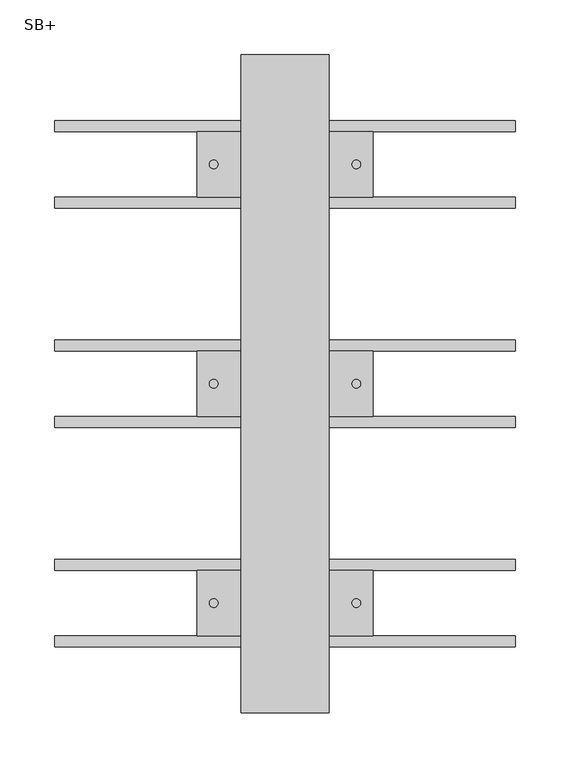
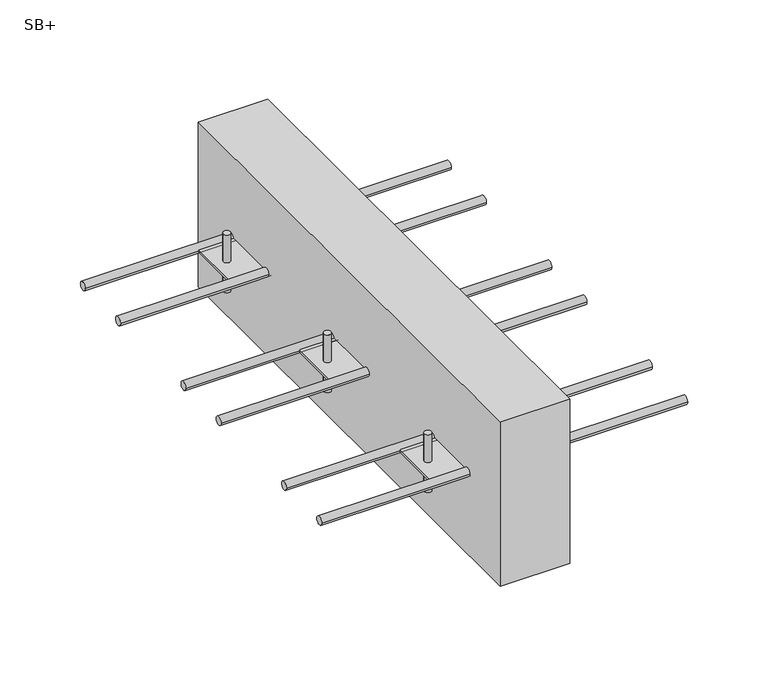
"""IFC4 building model written with IfcOpenShell, lengths in millimetres: proxy geometry, ACINOXplus_Typenreihe_S : SB+."""

from ifc_helpers import new_model, si_unit, point, frame, frame_2d, origin, place, context, project, spatial, polyline, circle_curve, trimmed, segment, composite_curve, outline, extrude, source, transform, mapped, element, save
from ifc_brep_helpers import plane_surface, cylinder_surface, advanced_brep


def sb_80aecc08(model_context):
    return source(origin(), model_context, "Body", "SolidModel", [
        extrude(outline(composite_curve([segment(trimmed(circle_curve(frame_2d((-35.0, -100.0)), 5.0), [point((-40.0, -100.0))], [point((-30.0, -100.0))], False, "CARTESIAN"), True, "CONTINUOUS"), segment(trimmed(circle_curve(frame_2d((-35.0, -100.0)), 5.0), [point((-30.0, -100.0))], [point((-40.0, -100.0))], False, "CARTESIAN"), True, "CONTINUOUS")], self_intersect=False)), frame((-210.0, 0.0, 0.0), z_axis=(1.0, 0.0, 0.0), x_axis=(0.0, 1.0, 0.0)), (0.0, 0.0, 1.0), 420.0),
        extrude(outline(composite_curve([segment(trimmed(circle_curve(frame_2d((35.0, -100.0)), 5.0), [point((30.0, -100.0))], [point((40.0, -100.0))], False, "CARTESIAN"), True, "CONTINUOUS"), segment(trimmed(circle_curve(frame_2d((35.0, -100.0)), 5.0), [point((40.0, -100.0))], [point((30.0, -100.0))], False, "CARTESIAN"), True, "CONTINUOUS")], self_intersect=False)), frame((-210.0, 0.0, 0.0), z_axis=(1.0, 0.0, 0.0), x_axis=(0.0, 1.0, 0.0)), (0.0, 0.0, 1.0), 420.0),
        advanced_brep(
        [(-69.0, 0.0, -65.0), (-61.0, 0.0, -65.0), (61.0, 0.0, -65.0), (69.0, 0.0, -65.0), (-69.0, 0.0, -135.0), (-61.0, 0.0, -135.0), (61.0, 0.0, -135.0), (69.0, 0.0, -135.0), (-69.0, 0.0, -98.5), (-61.0, 0.0, -98.5), (-61.0, 0.0, -101.5), (-69.0, 0.0, -101.5), (61.0, 0.0, -98.5), (69.0, 0.0, -98.5), (69.0, 0.0, -101.5), (61.0, 0.0, -101.5), (80.0, 30.0, -98.5), (-80.0, 30.0, -98.5), (-80.0, -30.0, -98.5), (80.0, -30.0, -98.5), (80.0, 30.0, -101.5), (80.0, -30.0, -101.5), (-80.0, -30.0, -101.5), (-80.0, 30.0, -101.5)],
        [
            (0, 1, circle_curve(frame((-65.0, 0.0, -65.0), z_axis=(0.0, 0.0, 1.0), x_axis=(1.0, 0.0, 0.0)), 4.0)),
            (1, 0, circle_curve(frame((-65.0, 0.0, -65.0), z_axis=(0.0, 0.0, 1.0), x_axis=(1.0, 0.0, 0.0)), 4.0)),
            (2, 3, circle_curve(frame((65.0, 0.0, -65.0), z_axis=(0.0, 0.0, 1.0), x_axis=(1.0, 0.0, 0.0)), 4.0)),
            (3, 2, circle_curve(frame((65.0, 0.0, -65.0), z_axis=(0.0, 0.0, 1.0), x_axis=(1.0, 0.0, 0.0)), 4.0)),
            (4, 5, circle_curve(frame((-65.0, 0.0, -135.0), z_axis=(0.0, 0.0, -1.0), x_axis=(1.0, 0.0, 0.0)), 4.0)),
            (5, 4, circle_curve(frame((-65.0, 0.0, -135.0), z_axis=(0.0, 0.0, -1.0), x_axis=(1.0, 0.0, 0.0)), 4.0)),
            (6, 7, circle_curve(frame((65.0, 0.0, -135.0), z_axis=(0.0, 0.0, -1.0), x_axis=(1.0, 0.0, 0.0)), 4.0)),
            (7, 6, circle_curve(frame((65.0, 0.0, -135.0), z_axis=(0.0, 0.0, -1.0), x_axis=(1.0, 0.0, 0.0)), 4.0)),
            (0, 8),
            (8, 9, circle_curve(frame((-65.0, 0.0, -98.5), z_axis=(0.0, 0.0, 1.0), x_axis=(1.0, 0.0, 0.0)), 4.0)),
            (9, 1),
            (5, 10),
            (10, 11, circle_curve(frame((-65.0, 0.0, -101.5), z_axis=(0.0, 0.0, -1.0), x_axis=(1.0, 0.0, 0.0)), 4.0)),
            (11, 4),
            (9, 8, circle_curve(frame((-65.0, 0.0, -98.5), z_axis=(0.0, 0.0, 1.0), x_axis=(1.0, 0.0, 0.0)), 4.0)),
            (11, 10, circle_curve(frame((-65.0, 0.0, -101.5), z_axis=(0.0, 0.0, -1.0), x_axis=(1.0, 0.0, 0.0)), 4.0)),
            (2, 12),
            (12, 13, circle_curve(frame((65.0, 0.0, -98.5), z_axis=(0.0, 0.0, 1.0), x_axis=(1.0, 0.0, 0.0)), 4.0)),
            (13, 3),
            (7, 14),
            (14, 15, circle_curve(frame((65.0, 0.0, -101.5), z_axis=(0.0, 0.0, -1.0), x_axis=(1.0, 0.0, 0.0)), 4.0)),
            (15, 6),
            (13, 12, circle_curve(frame((65.0, 0.0, -98.5), z_axis=(0.0, 0.0, 1.0), x_axis=(1.0, 0.0, 0.0)), 4.0)),
            (15, 14, circle_curve(frame((65.0, 0.0, -101.5), z_axis=(0.0, 0.0, -1.0), x_axis=(1.0, 0.0, 0.0)), 4.0)),
            (16, 17),
            (17, 18),
            (18, 19),
            (19, 16),
            (20, 21),
            (21, 22),
            (22, 23),
            (23, 20),
            (16, 20),
            (23, 17),
            (22, 18),
            (21, 19),
        ],
        [
            plane_surface(frame((-61.0, 0.0, -65.0), z_axis=(0.0, 0.0, 1.0), x_axis=(0.0, 1.0, 0.0))),
            plane_surface(frame((-61.0, 0.0, -135.0), z_axis=(0.0, 0.0, -1.0), x_axis=(0.0, -1.0, 0.0))),
            cylinder_surface(frame((-65.0, 0.0, -135.0), z_axis=(0.0, 0.0, 1.0), x_axis=(1.0, 0.0, 0.0)), 4.0),
            cylinder_surface(frame((65.0, 0.0, -105.0), z_axis=(0.0, 0.0, 1.0), x_axis=(1.0, 0.0, 0.0)), 4.0),
            plane_surface(frame((-80.0, 30.0, -98.5), z_axis=(0.0, 0.0, 1.0), x_axis=(-1.0, 0.0, 0.0))),
            plane_surface(frame((-80.0, 30.0, -101.5), z_axis=(0.0, 0.0, -1.0), x_axis=(1.0, 0.0, 0.0))),
            plane_surface(frame((80.0, 30.0, -98.5), z_axis=(0.0, 1.0, 0.0), x_axis=(0.0, 0.0, -1.0))),
            plane_surface(frame((-80.0, 30.0, -98.5), z_axis=(-1.0, 0.0, 0.0), x_axis=(0.0, 0.0, -1.0))),
            plane_surface(frame((-80.0, -30.0, -98.5), z_axis=(0.0, -1.0, 0.0), x_axis=(0.0, 0.0, -1.0))),
            plane_surface(frame((80.0, -30.0, -98.5), z_axis=(1.0, 0.0, 0.0), x_axis=(0.0, 0.0, -1.0))),
        ],
        [
            (0, [[1, 2]]),
            (0, [[3, 4]]),
            (1, [[5, 6]]),
            (1, [[7, 8]]),
            (2, [[-1, 9, 10, 11]]),
            (2, [[-6, 12, 13, 14]]),
            (2, [[-2, -11, 15, -9]]),
            (2, [[-5, -14, 16, -12]]),
            (3, [[-3, 17, 18, 19]]),
            (3, [[-8, 20, 21, 22]]),
            (3, [[-4, -19, 23, -17]]),
            (3, [[-7, -22, 24, -20]]),
            (4, [[25, 26, 27, 28], [-10, -15], [-18, -23]]),
            (5, [[29, 30, 31, 32], [-13, -16], [-21, -24]]),
            (6, [[-25, 33, -32, 34]]),
            (7, [[-26, -34, -31, 35]]),
            (8, [[-27, -35, -30, 36]]),
            (9, [[-28, -36, -29, -33]]),
        ],
    ),
        extrude(outline(composite_curve([segment(trimmed(circle_curve(frame_2d((-235.0, -100.0)), 5.0), [point((-240.0, -100.0))], [point((-230.0, -100.0))], False, "CARTESIAN"), True, "CONTINUOUS"), segment(trimmed(circle_curve(frame_2d((-235.0, -100.0)), 5.0), [point((-230.0, -100.0))], [point((-240.0, -100.0))], False, "CARTESIAN"), True, "CONTINUOUS")], self_intersect=False)), frame((-210.0, 0.0, 0.0), z_axis=(1.0, 0.0, 0.0), x_axis=(0.0, 1.0, 0.0)), (0.0, 0.0, 1.0), 420.0),
        extrude(outline(composite_curve([segment(trimmed(circle_curve(frame_2d((-165.0, -100.0)), 5.0), [point((-170.0, -100.0))], [point((-160.0, -100.0))], False, "CARTESIAN"), True, "CONTINUOUS"), segment(trimmed(circle_curve(frame_2d((-165.0, -100.0)), 5.0), [point((-160.0, -100.0))], [point((-170.0, -100.0))], False, "CARTESIAN"), True, "CONTINUOUS")], self_intersect=False)), frame((-210.0, 0.0, 0.0), z_axis=(1.0, 0.0, 0.0), x_axis=(0.0, 1.0, 0.0)), (0.0, 0.0, 1.0), 420.0),
        advanced_brep(
        [(-69.0, -200.0, -65.0), (-61.0, -200.0, -65.0), (61.0, -200.0, -65.0), (69.0, -200.0, -65.0), (-69.0, -200.0, -135.0), (-61.0, -200.0, -135.0), (61.0, -200.0, -135.0), (69.0, -200.0, -135.0), (-69.0, -200.0, -98.5), (-61.0, -200.0, -98.5), (-61.0, -200.0, -101.5), (-69.0, -200.0, -101.5), (61.0, -200.0, -98.5), (69.0, -200.0, -98.5), (69.0, -200.0, -101.5), (61.0, -200.0, -101.5), (80.0, -170.0, -98.5), (-80.0, -170.0, -98.5), (-80.0, -230.0, -98.5), (80.0, -230.0, -98.5), (80.0, -170.0, -101.5), (80.0, -230.0, -101.5), (-80.0, -230.0, -101.5), (-80.0, -170.0, -101.5)],
        [
            (0, 1, circle_curve(frame((-65.0, -200.0, -65.0), z_axis=(0.0, 0.0, 1.0), x_axis=(1.0, 0.0, 0.0)), 4.0)),
            (1, 0, circle_curve(frame((-65.0, -200.0, -65.0), z_axis=(0.0, 0.0, 1.0), x_axis=(1.0, 0.0, 0.0)), 4.0)),
            (2, 3, circle_curve(frame((65.0, -200.0, -65.0), z_axis=(0.0, 0.0, 1.0), x_axis=(1.0, 0.0, 0.0)), 4.0)),
            (3, 2, circle_curve(frame((65.0, -200.0, -65.0), z_axis=(0.0, 0.0, 1.0), x_axis=(1.0, 0.0, 0.0)), 4.0)),
            (4, 5, circle_curve(frame((-65.0, -200.0, -135.0), z_axis=(0.0, 0.0, -1.0), x_axis=(1.0, 0.0, 0.0)), 4.0)),
            (5, 4, circle_curve(frame((-65.0, -200.0, -135.0), z_axis=(0.0, 0.0, -1.0), x_axis=(1.0, 0.0, 0.0)), 4.0)),
            (6, 7, circle_curve(frame((65.0, -200.0, -135.0), z_axis=(0.0, 0.0, -1.0), x_axis=(1.0, 0.0, 0.0)), 4.0)),
            (7, 6, circle_curve(frame((65.0, -200.0, -135.0), z_axis=(0.0, 0.0, -1.0), x_axis=(1.0, 0.0, 0.0)), 4.0)),
            (0, 8),
            (8, 9, circle_curve(frame((-65.0, -200.0, -98.5), z_axis=(0.0, 0.0, 1.0), x_axis=(1.0, 0.0, 0.0)), 4.0)),
            (9, 1),
            (5, 10),
            (10, 11, circle_curve(frame((-65.0, -200.0, -101.5), z_axis=(0.0, 0.0, -1.0), x_axis=(1.0, 0.0, 0.0)), 4.0)),
            (11, 4),
            (9, 8, circle_curve(frame((-65.0, -200.0, -98.5), z_axis=(0.0, 0.0, 1.0), x_axis=(1.0, 0.0, 0.0)), 4.0)),
            (11, 10, circle_curve(frame((-65.0, -200.0, -101.5), z_axis=(0.0, 0.0, -1.0), x_axis=(1.0, 0.0, 0.0)), 4.0)),
            (2, 12),
            (12, 13, circle_curve(frame((65.0, -200.0, -98.5), z_axis=(0.0, 0.0, 1.0), x_axis=(1.0, 0.0, 0.0)), 4.0)),
            (13, 3),
            (7, 14),
            (14, 15, circle_curve(frame((65.0, -200.0, -101.5), z_axis=(0.0, 0.0, -1.0), x_axis=(1.0, 0.0, 0.0)), 4.0)),
            (15, 6),
            (13, 12, circle_curve(frame((65.0, -200.0, -98.5), z_axis=(0.0, 0.0, 1.0), x_axis=(1.0, 0.0, 0.0)), 4.0)),
            (15, 14, circle_curve(frame((65.0, -200.0, -101.5), z_axis=(0.0, 0.0, -1.0), x_axis=(1.0, 0.0, 0.0)), 4.0)),
            (16, 17),
            (17, 18),
            (18, 19),
            (19, 16),
            (20, 21),
            (21, 22),
            (22, 23),
            (23, 20),
            (16, 20),
            (23, 17),
            (22, 18),
            (21, 19),
        ],
        [
            plane_surface(frame((-61.0, -200.0, -65.0), z_axis=(0.0, 0.0, 1.0), x_axis=(0.0, 1.0, 0.0))),
            plane_surface(frame((-61.0, -200.0, -135.0), z_axis=(0.0, 0.0, -1.0), x_axis=(0.0, -1.0, 0.0))),
            cylinder_surface(frame((-65.0, -200.0, -135.0), z_axis=(0.0, 0.0, 1.0), x_axis=(1.0, 0.0, 0.0)), 4.0),
            cylinder_surface(frame((65.0, -200.0, -105.0), z_axis=(0.0, 0.0, 1.0), x_axis=(1.0, 0.0, 0.0)), 4.0),
            plane_surface(frame((-80.0, -170.0, -98.5), z_axis=(0.0, 0.0, 1.0), x_axis=(-1.0, 0.0, 0.0))),
            plane_surface(frame((-80.0, -170.0, -101.5), z_axis=(0.0, 0.0, -1.0), x_axis=(1.0, 0.0, 0.0))),
            plane_surface(frame((80.0, -170.0, -98.5), z_axis=(0.0, 1.0, 0.0), x_axis=(0.0, 0.0, -1.0))),
            plane_surface(frame((-80.0, -170.0, -98.5), z_axis=(-1.0, 0.0, 0.0), x_axis=(0.0, 0.0, -1.0))),
            plane_surface(frame((-80.0, -230.0, -98.5), z_axis=(0.0, -1.0, 0.0), x_axis=(0.0, 0.0, -1.0))),
            plane_surface(frame((80.0, -230.0, -98.5), z_axis=(1.0, 0.0, 0.0), x_axis=(0.0, 0.0, -1.0))),
        ],
        [
            (0, [[1, 2]]),
            (0, [[3, 4]]),
            (1, [[5, 6]]),
            (1, [[7, 8]]),
            (2, [[-1, 9, 10, 11]]),
            (2, [[-6, 12, 13, 14]]),
            (2, [[-2, -11, 15, -9]]),
            (2, [[-5, -14, 16, -12]]),
            (3, [[-3, 17, 18, 19]]),
            (3, [[-8, 20, 21, 22]]),
            (3, [[-4, -19, 23, -17]]),
            (3, [[-7, -22, 24, -20]]),
            (4, [[25, 26, 27, 28], [-10, -15], [-18, -23]]),
            (5, [[29, 30, 31, 32], [-13, -16], [-21, -24]]),
            (6, [[-25, 33, -32, 34]]),
            (7, [[-26, -34, -31, 35]]),
            (8, [[-27, -35, -30, 36]]),
            (9, [[-28, -36, -29, -33]]),
        ],
    ),
        extrude(outline(composite_curve([segment(trimmed(circle_curve(frame_2d((165.0, -100.0)), 5.0), [point((160.0, -100.0))], [point((170.0, -100.0))], False, "CARTESIAN"), True, "CONTINUOUS"), segment(trimmed(circle_curve(frame_2d((165.0, -100.0)), 5.0), [point((170.0, -100.0))], [point((160.0, -100.0))], False, "CARTESIAN"), True, "CONTINUOUS")], self_intersect=False)), frame((-210.0, 0.0, 0.0), z_axis=(1.0, 0.0, 0.0), x_axis=(0.0, 1.0, 0.0)), (0.0, 0.0, 1.0), 420.0),
        extrude(outline(composite_curve([segment(trimmed(circle_curve(frame_2d((235.0, -100.0)), 5.0), [point((230.0, -100.0))], [point((240.0, -100.0))], False, "CARTESIAN"), True, "CONTINUOUS"), segment(trimmed(circle_curve(frame_2d((235.0, -100.0)), 5.0), [point((240.0, -100.0))], [point((230.0, -100.0))], False, "CARTESIAN"), True, "CONTINUOUS")], self_intersect=False)), frame((-210.0, 0.0, 0.0), z_axis=(1.0, 0.0, 0.0), x_axis=(0.0, 1.0, 0.0)), (0.0, 0.0, 1.0), 420.0),
        advanced_brep(
        [(-69.0, 200.0, -65.0), (-61.0, 200.0, -65.0), (61.0, 200.0, -65.0), (69.0, 200.0, -65.0), (-69.0, 200.0, -135.0), (-61.0, 200.0, -135.0), (61.0, 200.0, -135.0), (69.0, 200.0, -135.0), (-69.0, 200.0, -98.5), (-61.0, 200.0, -98.5), (-61.0, 200.0, -101.5), (-69.0, 200.0, -101.5), (61.0, 200.0, -98.5), (69.0, 200.0, -98.5), (69.0, 200.0, -101.5), (61.0, 200.0, -101.5), (80.0, 230.0, -98.5), (-80.0, 230.0, -98.5), (-80.0, 170.0, -98.5), (80.0, 170.0, -98.5), (80.0, 230.0, -101.5), (80.0, 170.0, -101.5), (-80.0, 170.0, -101.5), (-80.0, 230.0, -101.5)],
        [
            (0, 1, circle_curve(frame((-65.0, 200.0, -65.0), z_axis=(0.0, 0.0, 1.0), x_axis=(1.0, 0.0, 0.0)), 4.0)),
            (1, 0, circle_curve(frame((-65.0, 200.0, -65.0), z_axis=(0.0, 0.0, 1.0), x_axis=(1.0, 0.0, 0.0)), 4.0)),
            (2, 3, circle_curve(frame((65.0, 200.0, -65.0), z_axis=(0.0, 0.0, 1.0), x_axis=(1.0, 0.0, 0.0)), 4.0)),
            (3, 2, circle_curve(frame((65.0, 200.0, -65.0), z_axis=(0.0, 0.0, 1.0), x_axis=(1.0, 0.0, 0.0)), 4.0)),
            (4, 5, circle_curve(frame((-65.0, 200.0, -135.0), z_axis=(0.0, 0.0, -1.0), x_axis=(1.0, 0.0, 0.0)), 4.0)),
            (5, 4, circle_curve(frame((-65.0, 200.0, -135.0), z_axis=(0.0, 0.0, -1.0), x_axis=(1.0, 0.0, 0.0)), 4.0)),
            (6, 7, circle_curve(frame((65.0, 200.0, -135.0), z_axis=(0.0, 0.0, -1.0), x_axis=(1.0, 0.0, 0.0)), 4.0)),
            (7, 6, circle_curve(frame((65.0, 200.0, -135.0), z_axis=(0.0, 0.0, -1.0), x_axis=(1.0, 0.0, 0.0)), 4.0)),
            (0, 8),
            (8, 9, circle_curve(frame((-65.0, 200.0, -98.5), z_axis=(0.0, 0.0, 1.0), x_axis=(1.0, 0.0, 0.0)), 4.0)),
            (9, 1),
            (5, 10),
            (10, 11, circle_curve(frame((-65.0, 200.0, -101.5), z_axis=(0.0, 0.0, -1.0), x_axis=(1.0, 0.0, 0.0)), 4.0)),
            (11, 4),
            (9, 8, circle_curve(frame((-65.0, 200.0, -98.5), z_axis=(0.0, 0.0, 1.0), x_axis=(1.0, 0.0, 0.0)), 4.0)),
            (11, 10, circle_curve(frame((-65.0, 200.0, -101.5), z_axis=(0.0, 0.0, -1.0), x_axis=(1.0, 0.0, 0.0)), 4.0)),
            (2, 12),
            (12, 13, circle_curve(frame((65.0, 200.0, -98.5), z_axis=(0.0, 0.0, 1.0), x_axis=(1.0, 0.0, 0.0)), 4.0)),
            (13, 3),
            (7, 14),
            (14, 15, circle_curve(frame((65.0, 200.0, -101.5), z_axis=(0.0, 0.0, -1.0), x_axis=(1.0, 0.0, 0.0)), 4.0)),
            (15, 6),
            (13, 12, circle_curve(frame((65.0, 200.0, -98.5), z_axis=(0.0, 0.0, 1.0), x_axis=(1.0, 0.0, 0.0)), 4.0)),
            (15, 14, circle_curve(frame((65.0, 200.0, -101.5), z_axis=(0.0, 0.0, -1.0), x_axis=(1.0, 0.0, 0.0)), 4.0)),
            (16, 17),
            (17, 18),
            (18, 19),
            (19, 16),
            (20, 21),
            (21, 22),
            (22, 23),
            (23, 20),
            (16, 20),
            (23, 17),
            (22, 18),
            (21, 19),
        ],
        [
            plane_surface(frame((-61.0, 200.0, -65.0), z_axis=(0.0, 0.0, 1.0), x_axis=(0.0, 1.0, 0.0))),
            plane_surface(frame((-61.0, 200.0, -135.0), z_axis=(0.0, 0.0, -1.0), x_axis=(0.0, -1.0, 0.0))),
            cylinder_surface(frame((-65.0, 200.0, -135.0), z_axis=(0.0, 0.0, 1.0), x_axis=(1.0, 0.0, 0.0)), 4.0),
            cylinder_surface(frame((65.0, 200.0, -105.0), z_axis=(0.0, 0.0, 1.0), x_axis=(1.0, 0.0, 0.0)), 4.0),
            plane_surface(frame((-80.0, 230.0, -98.5), z_axis=(0.0, 0.0, 1.0), x_axis=(-1.0, 0.0, 0.0))),
            plane_surface(frame((-80.0, 230.0, -101.5), z_axis=(0.0, 0.0, -1.0), x_axis=(1.0, 0.0, 0.0))),
            plane_surface(frame((80.0, 230.0, -98.5), z_axis=(0.0, 1.0, 0.0), x_axis=(0.0, 0.0, -1.0))),
            plane_surface(frame((-80.0, 230.0, -98.5), z_axis=(-1.0, 0.0, 0.0), x_axis=(0.0, 0.0, -1.0))),
            plane_surface(frame((-80.0, 170.0, -98.5), z_axis=(0.0, -1.0, 0.0), x_axis=(0.0, 0.0, -1.0))),
            plane_surface(frame((80.0, 170.0, -98.5), z_axis=(1.0, 0.0, 0.0), x_axis=(0.0, 0.0, -1.0))),
        ],
        [
            (0, [[1, 2]]),
            (0, [[3, 4]]),
            (1, [[5, 6]]),
            (1, [[7, 8]]),
            (2, [[-1, 9, 10, 11]]),
            (2, [[-6, 12, 13, 14]]),
            (2, [[-2, -11, 15, -9]]),
            (2, [[-5, -14, 16, -12]]),
            (3, [[-3, 17, 18, 19]]),
            (3, [[-8, 20, 21, 22]]),
            (3, [[-4, -19, 23, -17]]),
            (3, [[-7, -22, 24, -20]]),
            (4, [[25, 26, 27, 28], [-10, -15], [-18, -23]]),
            (5, [[29, 30, 31, 32], [-13, -16], [-21, -24]]),
            (6, [[-25, 33, -32, 34]]),
            (7, [[-26, -34, -31, 35]]),
            (8, [[-27, -35, -30, 36]]),
            (9, [[-28, -36, -29, -33]]),
        ],
    ),
        extrude(outline(polyline([(40.0, 300.0), (40.0, -300.0), (-40.0, -300.0), (-40.0, 300.0), (40.0, 300.0)])), frame((0.0, 0.0, -200.0), z_axis=(0.0, 0.0, 1.0), x_axis=(1.0, 0.0, 0.0)), (0.0, 0.0, 1.0), 200.0),
    ])


if __name__ == "__main__":
    model = new_model("IFC4")
    model_context = context("Model", 3, world=origin())
    ifc_project = project(units=[si_unit("LENGTHUNIT", "METRE", prefix="MILLI")], contexts=[model_context])
    site = spatial("IfcSite", under=ifc_project)
    building = spatial("IfcBuilding", under=site)
    placement = place(None, origin())
    sb_shape = sb_80aecc08(model_context)
    element("IfcBuildingElementProxy", 1, Name="ACINOXplus_Typenreihe_S : SB+", ObjectType="ACINOXplus_Typenreihe_S : SB+", at=placement, inside=building, context=model_context, shape_type="MappedRepresentation", body=[
        mapped(sb_shape, transform((0.0, 0.0, 0.0), x_axis=(1.0, 0.0, 0.0), y_axis=(0.0, 1.0, 0.0), z_axis=(0.0, 0.0, 1.0))),
    ])
    save(model, "model.ifc")
